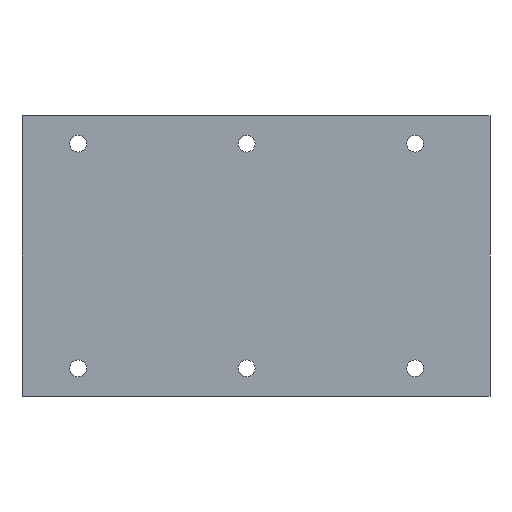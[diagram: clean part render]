
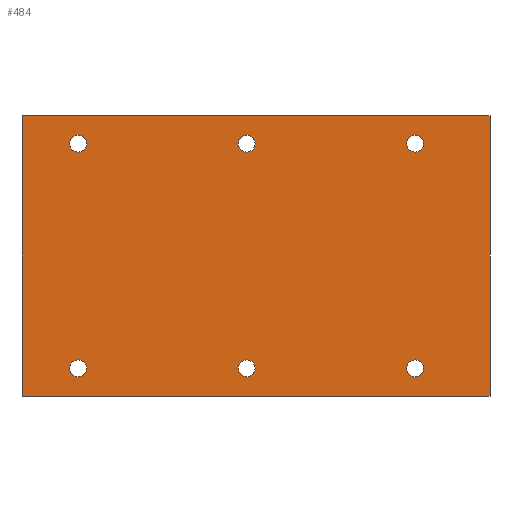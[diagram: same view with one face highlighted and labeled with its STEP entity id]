
A CAD part, front view. The second image highlights one B-rep face of the part: STEP entity #484.
In plain terms, the highlighted planar face has unit normal (0, -1, 0).
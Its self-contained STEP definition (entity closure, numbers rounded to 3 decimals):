
#5 = VERTEX_POINT ( 'NONE', #637 ) ;
#34 = FACE_BOUND ( 'NONE', #810, .T. ) ;
#39 = EDGE_CURVE ( 'NONE', #1242, #5, #489, .T. ) ;
#49 = CARTESIAN_POINT ( 'NONE',  ( 30., 0., 135. ) ) ;
#53 = ORIENTED_EDGE ( 'NONE', *, *, #1072, .T. ) ;
#57 = VERTEX_POINT ( 'NONE', #1331 ) ;
#66 = VECTOR ( 'NONE', #76, 1000. ) ;
#70 = ORIENTED_EDGE ( 'NONE', *, *, #39, .T. ) ;
#76 = DIRECTION ( 'NONE',  ( 1., 0., 0. ) ) ;
#96 = AXIS2_PLACEMENT_3D ( 'NONE', #239, #591, #589 ) ;
#99 = DIRECTION ( 'NONE',  ( -1., 0., 0. ) ) ;
#103 = AXIS2_PLACEMENT_3D ( 'NONE', #671, #664, #1006 ) ;
#117 = DIRECTION ( 'NONE',  ( 0., 1., 0. ) ) ;
#123 = LINE ( 'NONE', #288, #1337 ) ;
#186 = EDGE_CURVE ( 'NONE', #1317, #794, #1272, .T. ) ;
#198 = CARTESIAN_POINT ( 'NONE',  ( 120., 0., 130.5 ) ) ;
#200 = AXIS2_PLACEMENT_3D ( 'NONE', #1466, #646, #412 ) ;
#202 = DIRECTION ( 'NONE',  ( -1., 0., 0. ) ) ;
#207 = CARTESIAN_POINT ( 'NONE',  ( 120., 0., 135. ) ) ;
#210 = FACE_BOUND ( 'NONE', #273, .T. ) ;
#218 = CARTESIAN_POINT ( 'NONE',  ( 210., 0., 15. ) ) ;
#219 = DIRECTION ( 'NONE',  ( 0., 1., 0. ) ) ;
#220 = CARTESIAN_POINT ( 'NONE',  ( 250., 0., 150. ) ) ;
#222 = EDGE_CURVE ( 'NONE', #5, #1242, #1527, .T. ) ;
#228 = VERTEX_POINT ( 'NONE', #1405 ) ;
#239 = CARTESIAN_POINT ( 'NONE',  ( 210., 0., 15. ) ) ;
#248 = CARTESIAN_POINT ( 'NONE',  ( 30., 0., 139.5 ) ) ;
#263 = ORIENTED_EDGE ( 'NONE', *, *, #676, .T. ) ;
#273 = EDGE_LOOP ( 'NONE', ( #1226, #859 ) ) ;
#274 = DIRECTION ( 'NONE',  ( -1., 0., 0. ) ) ;
#288 = CARTESIAN_POINT ( 'NONE',  ( 250., 0., 150. ) ) ;
#293 = CARTESIAN_POINT ( 'NONE',  ( 0., 0., 150. ) ) ;
#300 = CIRCLE ( 'NONE', #103, 4.5 ) ;
#302 = FACE_BOUND ( 'NONE', #399, .T. ) ;
#312 = AXIS2_PLACEMENT_3D ( 'NONE', #207, #1035, #672 ) ;
#325 = DIRECTION ( 'NONE',  ( 0., 0., -1. ) ) ;
#361 = AXIS2_PLACEMENT_3D ( 'NONE', #455, #799, #796 ) ;
#367 = EDGE_LOOP ( 'NONE', ( #1427, #441, #1101, #724 ) ) ;
#370 = VERTEX_POINT ( 'NONE', #823 ) ;
#373 = PLANE ( 'NONE',  #543 ) ;
#399 = EDGE_LOOP ( 'NONE', ( #263, #53 ) ) ;
#408 = AXIS2_PLACEMENT_3D ( 'NONE', #1240, #219, #931 ) ;
#412 = DIRECTION ( 'NONE',  ( -1., 0., 0. ) ) ;
#423 = CARTESIAN_POINT ( 'NONE',  ( 120., 0., 139.5 ) ) ;
#428 = CARTESIAN_POINT ( 'NONE',  ( 250., 0., 150. ) ) ;
#437 = FACE_BOUND ( 'NONE', #990, .T. ) ;
#441 = ORIENTED_EDGE ( 'NONE', *, *, #1378, .F. ) ;
#443 = VERTEX_POINT ( 'NONE', #220 ) ;
#452 = CARTESIAN_POINT ( 'NONE',  ( 210., 0., 135. ) ) ;
#453 = CARTESIAN_POINT ( 'NONE',  ( 30., 0., 130.5 ) ) ;
#455 = CARTESIAN_POINT ( 'NONE',  ( 120., 0., 15. ) ) ;
#457 = CARTESIAN_POINT ( 'NONE',  ( 210., 0., 135. ) ) ;
#479 = VERTEX_POINT ( 'NONE', #248 ) ;
#484 = ADVANCED_FACE ( 'NONE', ( #302, #210, #34, #987, #971, #437, #655 ), #373, .F. ) ;
#489 = CIRCLE ( 'NONE', #200, 4.5 ) ;
#490 = DIRECTION ( 'NONE',  ( -1., 0., 0. ) ) ;
#494 = CIRCLE ( 'NONE', #767, 4.5 ) ;
#531 = AXIS2_PLACEMENT_3D ( 'NONE', #218, #117, #99 ) ;
#543 = AXIS2_PLACEMENT_3D ( 'NONE', #1193, #736, #490 ) ;
#589 = DIRECTION ( 'NONE',  ( -1., 0., 0. ) ) ;
#591 = DIRECTION ( 'NONE',  ( 0., 1., 0. ) ) ;
#629 = EDGE_CURVE ( 'NONE', #1150, #370, #494, .T. ) ;
#637 = CARTESIAN_POINT ( 'NONE',  ( 120., 0., 19.5 ) ) ;
#644 = DIRECTION ( 'NONE',  ( 0., 0., -1. ) ) ;
#645 = DIRECTION ( 'NONE',  ( -1., 0., 0. ) ) ;
#646 = DIRECTION ( 'NONE',  ( 0., 1., 0. ) ) ;
#655 = FACE_OUTER_BOUND ( 'NONE', #367, .T. ) ;
#661 = VERTEX_POINT ( 'NONE', #1108 ) ;
#663 = CARTESIAN_POINT ( 'NONE',  ( 120., 0., 10.5 ) ) ;
#664 = DIRECTION ( 'NONE',  ( 0., 1., 0. ) ) ;
#671 = CARTESIAN_POINT ( 'NONE',  ( 30., 0., 15. ) ) ;
#672 = DIRECTION ( 'NONE',  ( -1., 0., 0. ) ) ;
#676 = EDGE_CURVE ( 'NONE', #479, #918, #738, .T. ) ;
#684 = DIRECTION ( 'NONE',  ( 0., 1., 0. ) ) ;
#691 = CARTESIAN_POINT ( 'NONE',  ( 0., 0., 150. ) ) ;
#694 = CIRCLE ( 'NONE', #96, 4.5 ) ;
#724 = ORIENTED_EDGE ( 'NONE', *, *, #1471, .T. ) ;
#736 = DIRECTION ( 'NONE',  ( 0., 1., 0. ) ) ;
#738 = CIRCLE ( 'NONE', #851, 4.5 ) ;
#754 = VERTEX_POINT ( 'NONE', #1375 ) ;
#767 = AXIS2_PLACEMENT_3D ( 'NONE', #869, #1000, #645 ) ;
#776 = EDGE_CURVE ( 'NONE', #370, #1150, #300, .T. ) ;
#791 = CARTESIAN_POINT ( 'NONE',  ( 250., 0., 0. ) ) ;
#794 = VERTEX_POINT ( 'NONE', #198 ) ;
#796 = DIRECTION ( 'NONE',  ( -1., 0., 0. ) ) ;
#798 = EDGE_CURVE ( 'NONE', #1489, #57, #1396, .T. ) ;
#799 = DIRECTION ( 'NONE',  ( 0., 1., 0. ) ) ;
#804 = CARTESIAN_POINT ( 'NONE',  ( 0., 0., 0. ) ) ;
#809 = VECTOR ( 'NONE', #325, 1000. ) ;
#810 = EDGE_LOOP ( 'NONE', ( #1107, #1289 ) ) ;
#816 = CARTESIAN_POINT ( 'NONE',  ( 30., 0., 19.5 ) ) ;
#823 = CARTESIAN_POINT ( 'NONE',  ( 30., 0., 10.5 ) ) ;
#828 = EDGE_CURVE ( 'NONE', #794, #1317, #1009, .T. ) ;
#847 = VECTOR ( 'NONE', #644, 1000. ) ;
#851 = AXIS2_PLACEMENT_3D ( 'NONE', #49, #989, #274 ) ;
#859 = ORIENTED_EDGE ( 'NONE', *, *, #828, .T. ) ;
#861 = ORIENTED_EDGE ( 'NONE', *, *, #776, .T. ) ;
#868 = ORIENTED_EDGE ( 'NONE', *, *, #222, .T. ) ;
#869 = CARTESIAN_POINT ( 'NONE',  ( 30., 0., 15. ) ) ;
#889 = LINE ( 'NONE', #691, #809 ) ;
#906 = DIRECTION ( 'NONE',  ( -1., 0., 0. ) ) ;
#918 = VERTEX_POINT ( 'NONE', #453 ) ;
#926 = DIRECTION ( 'NONE',  ( 0., 1., 0. ) ) ;
#931 = DIRECTION ( 'NONE',  ( -1., 0., 0. ) ) ;
#971 = FACE_BOUND ( 'NONE', #1173, .T. ) ;
#987 = FACE_BOUND ( 'NONE', #1261, .T. ) ;
#989 = DIRECTION ( 'NONE',  ( 0., 1., 0. ) ) ;
#990 = EDGE_LOOP ( 'NONE', ( #1025, #1142 ) ) ;
#991 = EDGE_CURVE ( 'NONE', #754, #1533, #694, .T. ) ;
#995 = AXIS2_PLACEMENT_3D ( 'NONE', #457, #1263, #906 ) ;
#1000 = DIRECTION ( 'NONE',  ( 0., 1., 0. ) ) ;
#1006 = DIRECTION ( 'NONE',  ( -1., 0., 0. ) ) ;
#1009 = CIRCLE ( 'NONE', #408, 4.5 ) ;
#1025 = ORIENTED_EDGE ( 'NONE', *, *, #991, .T. ) ;
#1027 = CIRCLE ( 'NONE', #531, 4.5 ) ;
#1035 = DIRECTION ( 'NONE',  ( 0., 1., 0. ) ) ;
#1039 = EDGE_CURVE ( 'NONE', #1533, #754, #1027, .T. ) ;
#1072 = EDGE_CURVE ( 'NONE', #918, #479, #1078, .T. ) ;
#1078 = CIRCLE ( 'NONE', #1093, 4.5 ) ;
#1093 = AXIS2_PLACEMENT_3D ( 'NONE', #1424, #926, #1274 ) ;
#1101 = ORIENTED_EDGE ( 'NONE', *, *, #1243, .F. ) ;
#1107 = ORIENTED_EDGE ( 'NONE', *, *, #1437, .T. ) ;
#1108 = CARTESIAN_POINT ( 'NONE',  ( 210., 0., 130.5 ) ) ;
#1117 = LINE ( 'NONE', #428, #847 ) ;
#1142 = ORIENTED_EDGE ( 'NONE', *, *, #1039, .T. ) ;
#1150 = VERTEX_POINT ( 'NONE', #816 ) ;
#1154 = CIRCLE ( 'NONE', #995, 4.5 ) ;
#1173 = EDGE_LOOP ( 'NONE', ( #868, #70 ) ) ;
#1193 = CARTESIAN_POINT ( 'NONE',  ( 250., 0., 150. ) ) ;
#1203 = ORIENTED_EDGE ( 'NONE', *, *, #629, .T. ) ;
#1226 = ORIENTED_EDGE ( 'NONE', *, *, #186, .T. ) ;
#1238 = CIRCLE ( 'NONE', #1493, 4.5 ) ;
#1240 = CARTESIAN_POINT ( 'NONE',  ( 120., 0., 135. ) ) ;
#1242 = VERTEX_POINT ( 'NONE', #663 ) ;
#1243 = EDGE_CURVE ( 'NONE', #1244, #443, #123, .T. ) ;
#1244 = VERTEX_POINT ( 'NONE', #293 ) ;
#1261 = EDGE_LOOP ( 'NONE', ( #1203, #861 ) ) ;
#1263 = DIRECTION ( 'NONE',  ( 0., 1., 0. ) ) ;
#1272 = CIRCLE ( 'NONE', #312, 4.5 ) ;
#1274 = DIRECTION ( 'NONE',  ( -1., 0., 0. ) ) ;
#1289 = ORIENTED_EDGE ( 'NONE', *, *, #1490, .T. ) ;
#1317 = VERTEX_POINT ( 'NONE', #423 ) ;
#1331 = CARTESIAN_POINT ( 'NONE',  ( 250., 0., 0. ) ) ;
#1337 = VECTOR ( 'NONE', #1360, 1000. ) ;
#1360 = DIRECTION ( 'NONE',  ( 1., 0., 0. ) ) ;
#1375 = CARTESIAN_POINT ( 'NONE',  ( 210., 0., 19.5 ) ) ;
#1378 = EDGE_CURVE ( 'NONE', #443, #57, #1117, .T. ) ;
#1396 = LINE ( 'NONE', #791, #66 ) ;
#1405 = CARTESIAN_POINT ( 'NONE',  ( 210., 0., 139.5 ) ) ;
#1424 = CARTESIAN_POINT ( 'NONE',  ( 30., 0., 135. ) ) ;
#1427 = ORIENTED_EDGE ( 'NONE', *, *, #798, .T. ) ;
#1437 = EDGE_CURVE ( 'NONE', #228, #661, #1238, .T. ) ;
#1466 = CARTESIAN_POINT ( 'NONE',  ( 120., 0., 15. ) ) ;
#1471 = EDGE_CURVE ( 'NONE', #1244, #1489, #889, .T. ) ;
#1489 = VERTEX_POINT ( 'NONE', #804 ) ;
#1490 = EDGE_CURVE ( 'NONE', #661, #228, #1154, .T. ) ;
#1493 = AXIS2_PLACEMENT_3D ( 'NONE', #452, #684, #202 ) ;
#1504 = CARTESIAN_POINT ( 'NONE',  ( 210., 0., 10.5 ) ) ;
#1527 = CIRCLE ( 'NONE', #361, 4.5 ) ;
#1533 = VERTEX_POINT ( 'NONE', #1504 ) ;
